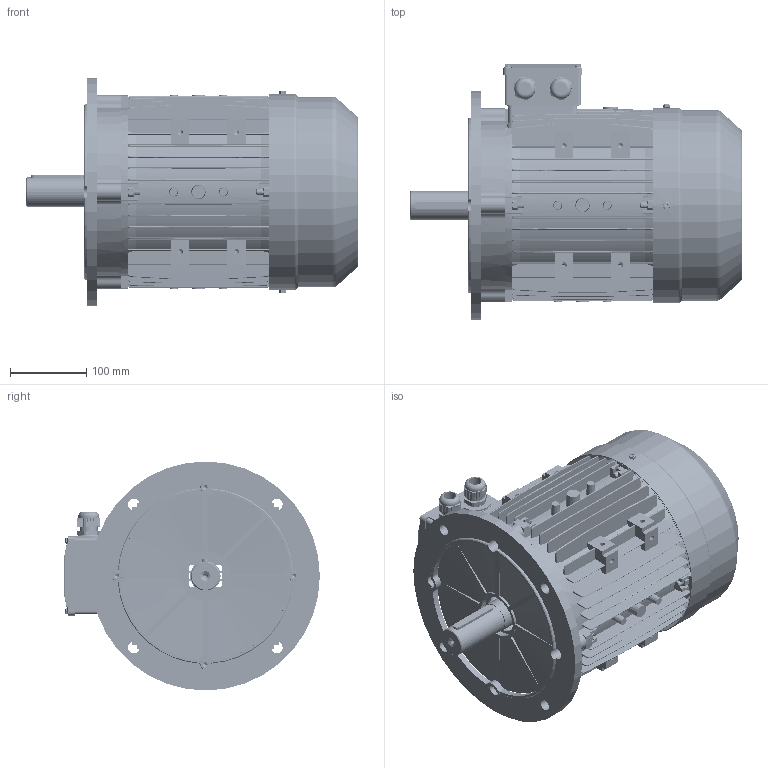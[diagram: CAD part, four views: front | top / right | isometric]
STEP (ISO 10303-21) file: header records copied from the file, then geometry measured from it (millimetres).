
FILE_DESCRIPTION (( 'STEP AP203' ), '1' );
FILE_NAME ('MSL132S assembly B5.STEP', '2017-11-26T10:18:56', ( 'user' ), ( 'china' ), 'SwSTEP 2.0', 'SolidWorks 2016', '' );
FILE_SCHEMA (( 'CONFIG_CONTROL_DESIGN' ));
Length unit declared in the file: millimetre
Products named in the file (16): M132儂褲_S; M112-132諉盄碟(苤); M132瑞欶_117; M25 cable gland; M132傷裔B5; MS132 綴裔瑞欶郪磁; GB-T 70.1-2000 M8_40; GB-T 29.2-1988 M4鞠褒坋趼湍菜_05; MS132諉盄碟裔(苤); GB-T 41-2000 M8; M132-Shaft drive end_DNF; MSL132S assembly B5; GB-T 5780-2000 M8_040; M132傷裔B3_NonDrive; MS132諉盄碟釱(苤)_2Holes; GB-T 29.2-1988 M5鞠褒坋趼湍菜_10
Assembly tree (34 placements, depth 3):
  MSL132S assembly B5
    M132儂褲_S
    M132-Shaft drive end_DNF
    MS132 綴裔瑞欶郪磁
      M132傷裔B3_NonDrive
      M132瑞欶_117
      GB-T 29.2-1988 M5鞠褒坋趼湍菜_10  x3
    GB-T 41-2000 M8  x8
    GB-T 70.1-2000 M8_40  x4
    M132傷裔B5
    M112-132諉盄碟(苤)
      MS132諉盄碟釱(苤)_2Holes
      MS132諉盄碟裔(苤)
      GB-T 29.2-1988 M4鞠褒坋趼湍菜_05  x4
      M25 cable gland  x2
    GB-T 5780-2000 M8_040  x4
Bounding box: 435 x 335 x 300 mm (x, y, z)
Volume: 2674791 mm3; surface area: 1355805.2 mm2
Topology: 34 solids, 34 shells, 5469 faces, 14387 edges, 9009 vertices
Faces by surface type: plane 2273, cylinder 1376, cone 1108, bspline 596, torus 112, sphere 4
Entity records: 158008 total; most frequent: CARTESIAN_POINT 63227, ORIENTED_EDGE 20680, DIRECTION 17303, EDGE_CURVE 10340, VERTEX_POINT 6609, LINE 5879, VECTOR 5879, AXIS2_PLACEMENT_3D 5712
